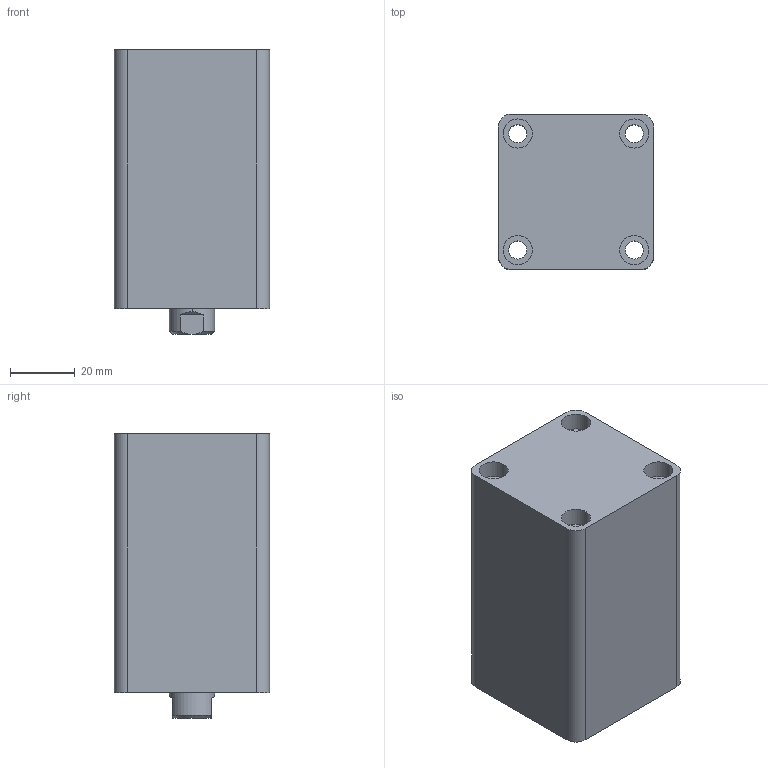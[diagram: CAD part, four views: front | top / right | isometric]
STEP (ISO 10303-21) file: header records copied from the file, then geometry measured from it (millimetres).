
FILE_DESCRIPTION (( 'STEP AP203' ), '1' );
FILE_NAME ('HTB-SD25-35N.STEP', '2019-10-07T06:00:15', ( '微软用户' ), ( '微软中国' ), 'SwSTEP 2.0', 'SolidWorks 2012', '' );
FILE_SCHEMA (( 'CONFIG_CONTROL_DESIGN' ));
Length unit declared in the file: millimetre
Products named in the file (3): HTB-SD25-35掛极; HTB-SD25-35N活塞杆; HTB-SD25-35N
Assembly tree (2 placements, depth 2):
  HTB-SD25-35N
    HTB-SD25-35掛极
    HTB-SD25-35N活塞杆
Bounding box: 48 x 48 x 88 mm (x, y, z)
Volume: 161082.5 mm3; surface area: 36679.7 mm2
Topology: 2 solids, 2 shells, 83 faces, 182 edges, 117 vertices
Faces by surface type: cylinder 42, plane 27, cone 8, torus 6
Entity records: 2653 total; most frequent: DIRECTION 454, CARTESIAN_POINT 429, ORIENTED_EDGE 360, AXIS2_PLACEMENT_3D 194, EDGE_CURVE 180, VERTEX_POINT 117, EDGE_LOOP 107, CIRCLE 106
